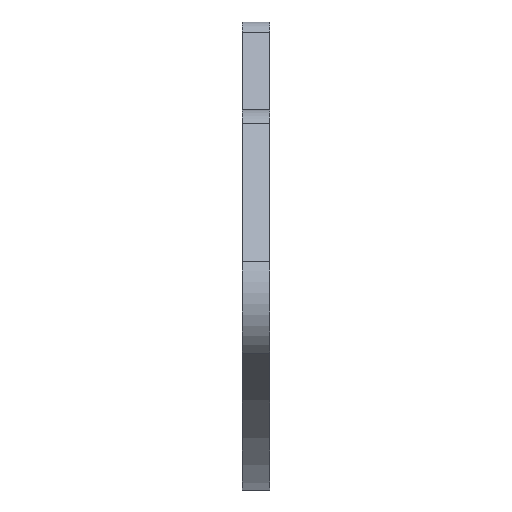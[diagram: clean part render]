
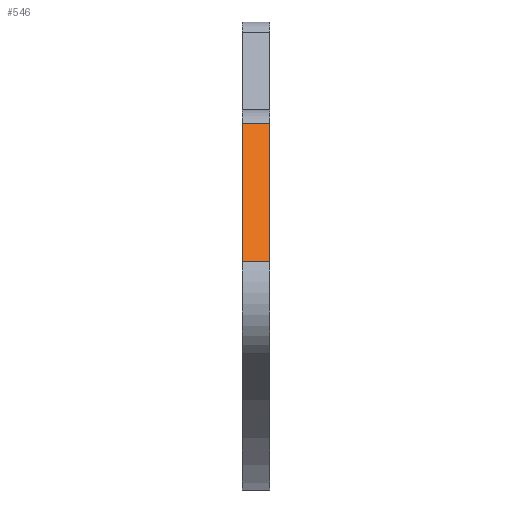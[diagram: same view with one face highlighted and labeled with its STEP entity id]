
A CAD part, left-side view. The second image highlights one B-rep face of the part: STEP entity #546.
In plain terms, the highlighted planar face has unit normal (-0.806, 0, 0.592).
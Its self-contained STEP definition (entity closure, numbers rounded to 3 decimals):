
#246=PLANE('',#6438);
#546=ADVANCED_FACE('',(#954),#246,.F.);
#954=FACE_OUTER_BOUND('',#1325,.T.);
#1325=EDGE_LOOP('',(#2595,#2596,#2597,#2598));
#2595=ORIENTED_EDGE('',*,*,#4661,.T.);
#2596=ORIENTED_EDGE('',*,*,#4938,.T.);
#2597=ORIENTED_EDGE('',*,*,#4920,.F.);
#2598=ORIENTED_EDGE('',*,*,#4939,.T.);
#4036=VERTEX_POINT('',#8730);
#4037=VERTEX_POINT('',#8732);
#4293=VERTEX_POINT('',#10298);
#4294=VERTEX_POINT('',#10300);
#4661=EDGE_CURVE('',#4037,#4036,#5510,.T.);
#4920=EDGE_CURVE('',#4293,#4294,#5572,.T.);
#4938=EDGE_CURVE('',#4036,#4294,#5581,.T.);
#4939=EDGE_CURVE('',#4293,#4037,#5582,.T.);
#5510=LINE('',#8731,#5879);
#5572=LINE('',#10299,#5941);
#5581=LINE('',#10467,#5951);
#5582=LINE('',#10468,#5952);
#5879=VECTOR('',#6851,1.);
#5941=VECTOR('',#6963,1.);
#5951=VECTOR('',#6997,1.);
#5952=VECTOR('',#6998,1.);
#6438=AXIS2_PLACEMENT_3D('',#10469,#6999,#7000);
#6851=DIRECTION('',(-0.591,0.,-0.806));
#6963=DIRECTION('',(-0.591,0.,-0.806));
#6997=DIRECTION('',(0.,-1.,0.));
#6998=DIRECTION('',(0.,1.,0.));
#6999=DIRECTION('',(0.806,0.,-0.591));
#7000=DIRECTION('',(-0.591,0.,-0.806));
#8730=CARTESIAN_POINT('',(-114.489,-453.,-105.363));
#8731=CARTESIAN_POINT('',(-76.879,-453.,-54.089));
#8732=CARTESIAN_POINT('',(-84.553,-453.,-64.551));
#10298=CARTESIAN_POINT('',(-84.553,-461.,-64.551));
#10299=CARTESIAN_POINT('',(-76.879,-461.,-54.089));
#10300=CARTESIAN_POINT('',(-114.489,-461.,-105.363));
#10467=CARTESIAN_POINT('',(-114.489,-461.,-105.363));
#10468=CARTESIAN_POINT('',(-84.553,-461.,-64.551));
#10469=CARTESIAN_POINT('',(-76.879,-461.,-54.089));
